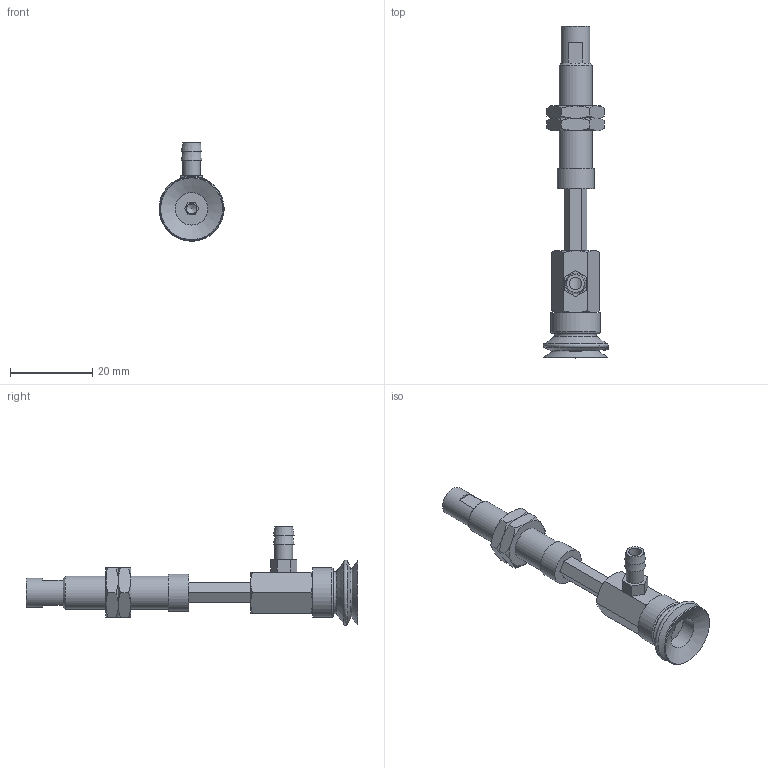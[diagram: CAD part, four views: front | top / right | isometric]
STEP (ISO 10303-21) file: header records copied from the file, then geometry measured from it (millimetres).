
FILE_DESCRIPTION(('STEP AP203'),'1');
FILE_NAME('-T.stp','2025-04-24T06:46:59',(' '),(' '),'Spatial InterOp 3D',' ',' ');
FILE_SCHEMA(('CONFIG_CONTROL_DESIGN'));
Length unit declared in the file: millimetre
Products named in the file (8): BNABPJYH-15-15-※-T; Adapter-15-NAPJ; CONNECTOR_H-15-15; NAPJH-15-15-NUT; NAPJTH-15-15-FBODY; NAPJTH-15-15-MBODY; BPJG-15-※; T
Assembly tree (8 placements, depth 2):
  BNABPJYH-15-15-※-T
    Adapter-15-NAPJ
    CONNECTOR_H-15-15
    NAPJH-15-15-NUT  x2
    NAPJTH-15-15-FBODY
    NAPJTH-15-15-MBODY
    BPJG-15-※
    T
Bounding box: 15.99 x 80.5 x 23.89 mm (x, y, z)
Volume: 5058.3 mm3; surface area: 5842 mm2
Topology: 8 solids, 8 shells, 182 faces, 397 edges, 241 vertices
Faces by surface type: plane 84, cone 61, cylinder 18, torus 9, bspline 6, sphere 4
Full cylindrical faces by diameter (mm): 2.5 x1, 3 x1, 4.134 x3, 4.3 x1, 4.6 x1, 5 x3, 7 x1, 7.188 x2, 7.9 x1, 8 x2, 9 x1, 12 x1
Entity records: 4880 total; most frequent: CARTESIAN_POINT 1266, DIRECTION 670, ORIENTED_EDGE 588, EDGE_CURVE 294, AXIS2_PLACEMENT_3D 274, EDGE_LOOP 225, VERTEX_POINT 204, FACE_OUTER_BOUND 183
